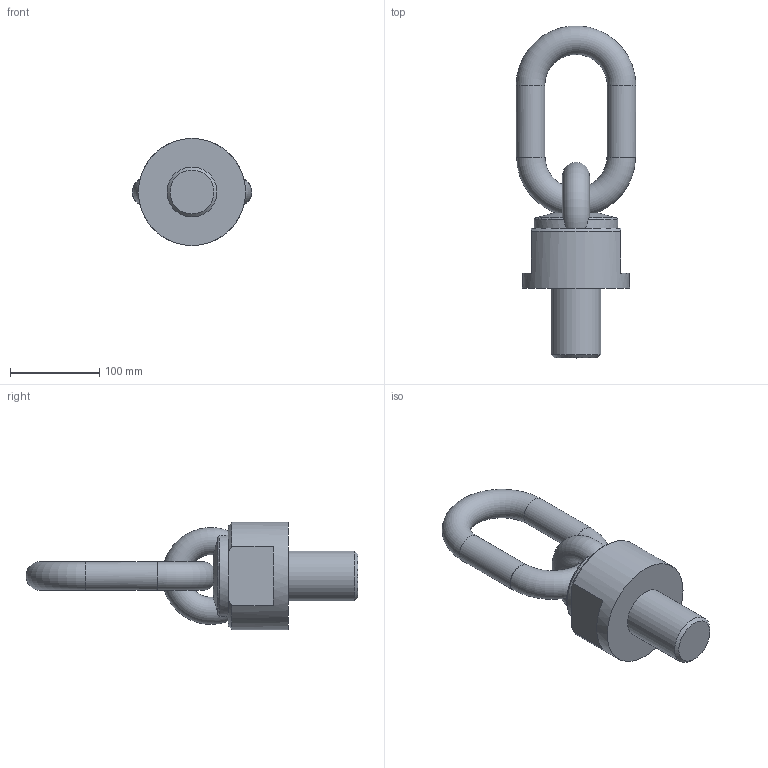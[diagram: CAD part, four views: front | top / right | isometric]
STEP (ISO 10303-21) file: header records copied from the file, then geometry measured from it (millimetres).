
FILE_DESCRIPTION( ( 'STEP AP203' ), '1' );
FILE_NAME( 'p:/temp/worker_23/temp/app_55_0201906261457370260743310e898ce_000000_00_00_000000/format_0/C800X1805678.stp', '2019-06-26T12:57:37', ( '' ), ( '' ), ' ', 'PARTsolutions', ' ' );
FILE_SCHEMA( ( 'CONFIG_CONTROL_DESIGN' ) );
Length unit declared in the file: millimetre
Products named in the file (1): _C800X1805678
Bounding box: 134 x 371.85 x 120 mm (x, y, z)
Volume: 1489874.7 mm3; surface area: 121583.5 mm2
Topology: 1 solids, 1 shells, 28 faces, 70 edges, 44 vertices
Faces by surface type: plane 12, cylinder 6, torus 5, cone 5
Full cylindrical faces by diameter (mm): 32 x2, 56 x1, 120 x1
Entity records: 1255 total; most frequent: CARTESIAN_POINT 605, DIRECTION 122, ORIENTED_EDGE 116, EDGE_CURVE 58, AXIS2_PLACEMENT_3D 57, EDGE_LOOP 42, VERTEX_POINT 41, FACE_OUTER_BOUND 35
